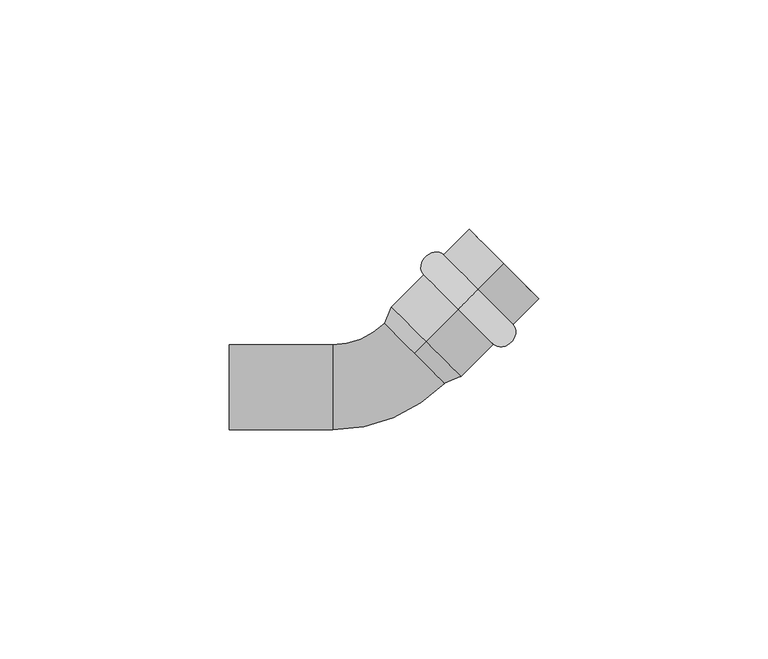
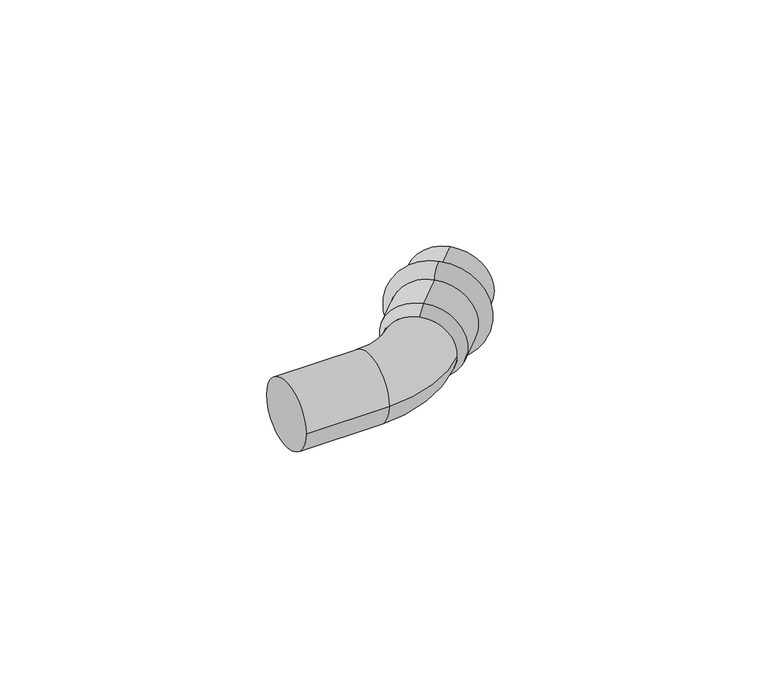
"""IFC4 building model written with IfcOpenShell, lengths in millimetres: pipe fitting geometry, РЕХАУ_Пресс Отвод-вставка : 18 x 45°."""

from ifc_helpers import new_model, si_unit, point, frame, origin, place, context, project, spatial, polyline, circle_curve, ellipse_curve, trimmed, source, transform, mapped, element, save
from ifc_brep_helpers import plane_surface, cylinder_surface, revolved_surface, advanced_brep


def pipe_fitting_7be5731b(model_context):
    return source(origin(), model_context, "Body", "AdvancedBrep", [
        advanced_brep(
        [(54.2839141, 21.2839141, 10.75), (54.2839141, 21.2839141, -10.75), (49.9705627, 16.9705627, -10.75), (49.9705627, 16.9705627, 10.75)],
        [
            (0, 1, circle_curve(frame((54.2839141, 21.2839141, 0.0), z_axis=(0.7071067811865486, 0.7071067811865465, 0.0), x_axis=(0.0, 0.0, -1.0)), 10.75)),
            (1, 2),
            (2, 3, circle_curve(frame((49.9705627, 16.9705627, 0.0), z_axis=(-0.7071067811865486, -0.7071067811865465, 0.0), x_axis=(0.0, 0.0, -1.0)), 10.75)),
            (3, 0),
            (1, 0, circle_curve(frame((54.2839141, 21.2839141, 0.0), z_axis=(0.7071067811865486, 0.7071067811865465, 0.0), x_axis=(0.0, 0.0, -1.0)), 10.75)),
            (3, 2, circle_curve(frame((49.9705627, 16.9705627, 0.0), z_axis=(-0.7071067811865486, -0.7071067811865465, 0.0), x_axis=(0.0, 0.0, -1.0)), 10.75)),
            (2, 1, ellipse_curve(frame((52.1272384, 19.1272384, -10.75), z_axis=(0.7071067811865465, -0.7071067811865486, 0.0), x_axis=(0.7071067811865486, 0.7071067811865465, 0.0)), 3.05, 2.5)),
            (0, 3, ellipse_curve(frame((52.1272384, 19.1272384, 10.75), z_axis=(0.7071067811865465, -0.7071067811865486, 0.0), x_axis=(0.7071067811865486, 0.7071067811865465, 0.0)), 3.05, 2.5)),
        ],
        [
            revolved_surface(polyline([(49.970562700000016, 16.970562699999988, -10.75), (54.28391410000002, 21.28391409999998, -10.75)]), (40.7781746, 7.7781746, 0.0), (-0.7071067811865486, -0.7071067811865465, 0.0)),
            revolved_surface(trimmed(ellipse_curve(frame((52.1272384, 19.1272384, -10.75), z_axis=(-0.7071067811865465, 0.7071067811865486, 0.0), x_axis=(0.7071067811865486, 0.7071067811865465, 0.0)), 3.05, 2.5), [point((54.2839141, 21.2839141, -10.75))], [point((49.9705627, 16.9705627, -10.75))], True, "CARTESIAN"), (40.7781746, 7.7781746, 0.0), (-0.7071067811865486, -0.7071067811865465, 0.0)),
        ],
        [
            (0, [[1, 2, 3, 4]]),
            (0, [[5, -4, 6, -2]]),
            (1, [[-3, 7, -1, 8]]),
            (1, [[-6, -8, -5, -7]]),
        ],
    ),
        advanced_brep(
        [(40.4007362, 7.4007362, 9.25), (40.4007362, 7.4007362, -9.25), (42.8994949, 9.8994949, -10.75), (42.8994949, 9.8994949, 10.75), (59.8700577, 26.8700577, 9.25), (59.8700577, 26.8700577, -9.25), (59.8700577, 26.8700577, 10.75), (59.8700577, 26.8700577, -10.75)],
        [
            (0, 1, circle_curve(frame((40.4007362, 7.4007362, 0.0), z_axis=(0.7071067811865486, 0.7071067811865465, 0.0), x_axis=(0.0, 0.0, -1.0)), 9.25)),
            (1, 2),
            (2, 3, circle_curve(frame((42.8994949, 9.8994949, 0.0), z_axis=(-0.7071067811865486, -0.7071067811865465, 0.0), x_axis=(0.0, 0.0, -1.0)), 10.75)),
            (3, 0),
            (1, 0, circle_curve(frame((40.4007362, 7.4007362, 0.0), z_axis=(0.7071067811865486, 0.7071067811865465, 0.0), x_axis=(0.0, 0.0, -1.0)), 9.25)),
            (3, 2, circle_curve(frame((42.8994949, 9.8994949, 0.0), z_axis=(-0.7071067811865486, -0.7071067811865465, 0.0), x_axis=(0.0, 0.0, -1.0)), 10.75)),
            (4, 5, circle_curve(frame((59.8700577, 26.8700577, 0.0), z_axis=(0.7071067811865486, 0.7071067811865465, 0.0), x_axis=(0.0, 0.0, -1.0)), 9.25)),
            (5, 1),
            (0, 4),
            (5, 4, circle_curve(frame((59.8700577, 26.8700577, 0.0), z_axis=(0.7071067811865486, 0.7071067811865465, 0.0), x_axis=(0.0, 0.0, -1.0)), 9.25)),
            (6, 7, circle_curve(frame((59.8700577, 26.8700577, 0.0), z_axis=(0.7071067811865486, 0.7071067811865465, 0.0), x_axis=(0.0, 0.0, -1.0)), 10.75)),
            (7, 5),
            (4, 6),
            (7, 6, circle_curve(frame((59.8700577, 26.8700577, 0.0), z_axis=(0.7071067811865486, 0.7071067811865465, 0.0), x_axis=(0.0, 0.0, -1.0)), 10.75)),
            (2, 7),
            (6, 3),
        ],
        [
            revolved_surface(polyline([(42.8994949, 9.8994949, -10.75), (40.4007362, 7.4007362, -9.25)]), (40.7781746, 7.7781746, 0.0), (-0.7071067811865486, -0.7071067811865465, 0.0)),
            revolved_surface(polyline([(40.4007362, 7.400736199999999, -9.25), (59.870057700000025, 26.87005769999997, -9.25)]), (40.7781746, 7.7781746, 0.0), (-0.7071067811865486, -0.7071067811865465, 0.0)),
            plane_surface(frame((59.8700577, 26.8700577, 0.0), z_axis=(0.7071067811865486, 0.7071067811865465, 0.0), x_axis=(0.0, 0.0, -1.0))),
            cylinder_surface(frame((40.7781746, 7.7781746, 0.0), z_axis=(-0.7071067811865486, -0.7071067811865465, 0.0), x_axis=(0.0, 0.0, -1.0)), 10.75),
        ],
        [
            (0, [[1, 2, 3, 4]]),
            (0, [[5, -4, 6, -2]]),
            (1, [[7, 8, -1, 9]]),
            (1, [[10, -9, -5, -8]]),
            (2, [[11, 12, -7, 13]]),
            (2, [[14, -13, -10, -12]]),
            (3, [[-3, 15, -11, 16]]),
            (3, [[-6, -16, -14, -15]]),
        ],
    ),
        advanced_brep(
        [(0.0, -9.25, 0.0), (0.0, 9.25, 0.0), (22.5337785, -9.25, 0.0), (22.5337785, 9.25, 0.0), (33.8599984, 13.9414739, 0.0), (46.9414739, 0.8599984, 0.0), (49.4402327, 3.3587572, 0.0), (36.3587572, 16.4402327, 0.0)],
        [
            (0, 1, circle_curve(frame((0.0, 0.0, 0.0), z_axis=(-1.0, 0.0, 0.0), x_axis=(0.0, 1.0, 0.0)), 9.25)),
            (1, 0, circle_curve(frame((0.0, 0.0, 0.0), z_axis=(-1.0, 0.0, 0.0), x_axis=(0.0, 1.0, 0.0)), 9.25)),
            (0, 2),
            (2, 3, circle_curve(frame((22.5337785, 0.0, 0.0), z_axis=(-1.0, 0.0, 0.0), x_axis=(0.0, 1.0, 0.0)), 9.25)),
            (3, 1),
            (3, 2, circle_curve(frame((22.5337785, 0.0, 0.0), z_axis=(-1.0, 0.0, 0.0), x_axis=(0.0, 1.0, 0.0)), 9.25)),
            (4, 3, circle_curve(frame((22.5337785, 25.2676938, 0.0), z_axis=(0.0, 0.0, -1.0), x_axis=(0.0, -1.0, 0.0)), 16.0176938)),
            (2, 5, circle_curve(frame((22.5337785, 25.2676938, 0.0), z_axis=(0.0, 0.0, 1.0), x_axis=(0.0, -1.0, 0.0)), 34.5176938)),
            (5, 4, circle_curve(frame((40.4007362, 7.4007362, 0.0), z_axis=(-0.7071067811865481, -0.7071067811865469, 0.0), x_axis=(-0.7071067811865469, 0.7071067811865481, 0.0)), 9.25)),
            (4, 5, circle_curve(frame((40.4007362, 7.4007362, 0.0), z_axis=(-0.7071067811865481, -0.7071067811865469, 0.0), x_axis=(-0.7071067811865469, 0.7071067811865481, 0.0)), 9.25)),
            (6, 7, circle_curve(frame((42.8994949, 9.8994949, 0.0), z_axis=(0.7071067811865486, 0.7071067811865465, 0.0), x_axis=(-0.7071067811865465, 0.7071067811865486, 0.0)), 9.25)),
            (7, 6, circle_curve(frame((42.8994949, 9.8994949, 0.0), z_axis=(0.7071067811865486, 0.7071067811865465, 0.0), x_axis=(-0.7071067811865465, 0.7071067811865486, 0.0)), 9.25)),
            (5, 6),
            (7, 4),
        ],
        [
            plane_surface(frame((0.0, 0.0, 0.0), z_axis=(-1.0, 0.0, 0.0), x_axis=(0.0, 0.0, 1.0))),
            cylinder_surface(frame((0.0, 0.0, 0.0), z_axis=(-1.0, 0.0, 0.0), x_axis=(0.0, 1.0, 0.0)), 9.25),
            revolved_surface(trimmed(ellipse_curve(frame((22.5337785, 0.0, 0.0), z_axis=(-1.0, 0.0, 0.0), x_axis=(0.0, 1.0, 0.0)), 9.25, 9.25), [point((22.5337785, -9.25, 0.0))], [point((22.5337785, 9.25, 0.0))], True, "CARTESIAN"), (22.5337785, 25.2676938, 0.0), (0.0, 0.0, 1.0)),
            revolved_surface(trimmed(ellipse_curve(frame((22.5337785, 0.0, 0.0), z_axis=(-1.0, 0.0, 0.0), x_axis=(0.0, 1.0, 0.0)), 9.25, 9.25), [point((22.5337785, 9.25, 0.0))], [point((22.5337785, -9.25, 0.0))], True, "CARTESIAN"), (22.5337785, 25.2676938, 0.0), (0.0, 0.0, 1.0)),
            plane_surface(frame((42.8994949, 9.8994949, 0.0), z_axis=(0.7071067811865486, 0.7071067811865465, 0.0), x_axis=(0.0, 0.0, 1.0))),
            cylinder_surface(frame((40.4007362, 7.4007362, 0.0), z_axis=(-0.7071067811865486, -0.7071067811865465, 0.0), x_axis=(-0.7071067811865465, 0.7071067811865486, 0.0)), 9.25),
        ],
        [
            (0, [[1, 2]]),
            (1, [[-1, 3, 4, 5]]),
            (1, [[-2, -5, 6, -3]]),
            (2, [[7, -4, 8, 9]]),
            (3, [[-8, -6, -7, 10]]),
            (4, [[11, 12]]),
            (5, [[-9, 13, -12, 14]]),
            (5, [[-10, -14, -11, -13]]),
        ],
    ),
    ])


if __name__ == "__main__":
    model = new_model("IFC4")
    model_context = context("Model", 3, world=origin())
    ifc_project = project(units=[si_unit("LENGTHUNIT", "METRE", prefix="MILLI")], contexts=[model_context])
    site = spatial("IfcSite", under=ifc_project)
    building = spatial("IfcBuilding", under=site)
    placement = place(None, origin())
    pipe_fitting_shape = pipe_fitting_7be5731b(model_context)
    element("IfcPipeFitting", 1, ObjectType="РЕХАУ_Пресс Отвод-вставка : 18 x 45°", at=placement, inside=building, context=model_context, shape_type="MappedRepresentation", body=[
        mapped(pipe_fitting_shape, transform((0.0, 0.0, 0.0), x_axis=(1.0, 0.0, 0.0), y_axis=(0.0, 1.0, 0.0), z_axis=(0.0, 0.0, 1.0))),
    ])
    save(model, "model.ifc")
